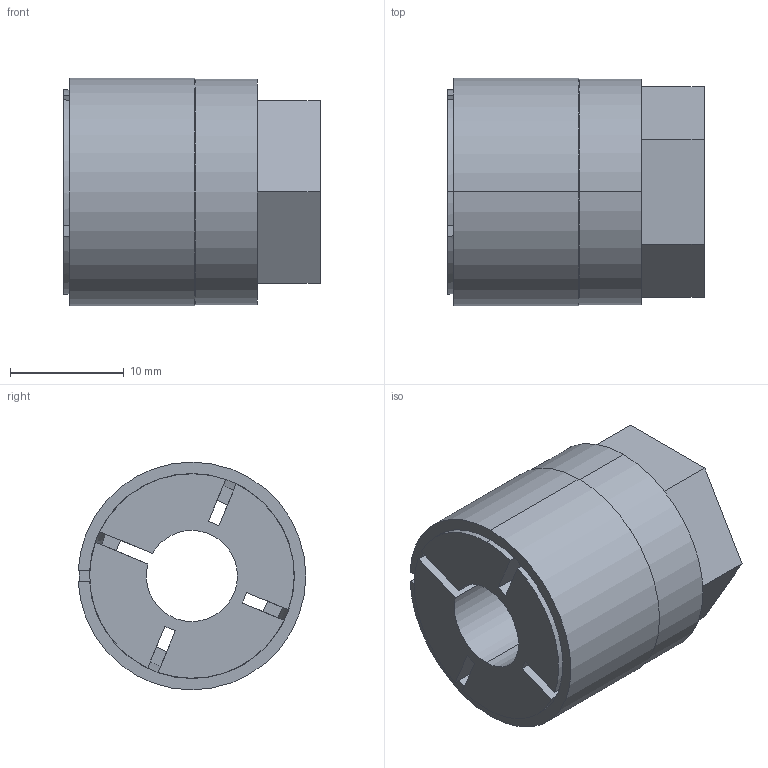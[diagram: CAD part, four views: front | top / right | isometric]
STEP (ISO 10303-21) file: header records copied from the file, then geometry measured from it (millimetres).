
FILE_DESCRIPTION (( 'STEP AP203' ), '1' );
FILE_NAME ('KBS 56 - 8 x 20.STEP', '2015-07-07T20:19:40', ( '' ), ( '' ), 'SwSTEP 2.0', 'SolidWorks 2010', '' );
FILE_SCHEMA (( 'CONFIG_CONTROL_DESIGN' ));
Length unit declared in the file: millimetre
Products named in the file (1): KBS 56 - 8 x 20
Bounding box: 22.5 x 19.99 x 20 mm (x, y, z)
Volume: 4989.4 mm3; surface area: 5373.7 mm2
Topology: 3 solids, 3 shells, 53 faces, 138 edges, 92 vertices
Faces by surface type: plane 30, cylinder 15, cone 8
Entity records: 1731 total; most frequent: CARTESIAN_POINT 320, DIRECTION 282, ORIENTED_EDGE 276, EDGE_CURVE 138, AXIS2_PLACEMENT_3D 100, VERTEX_POINT 92, VECTOR 82, LINE 82
